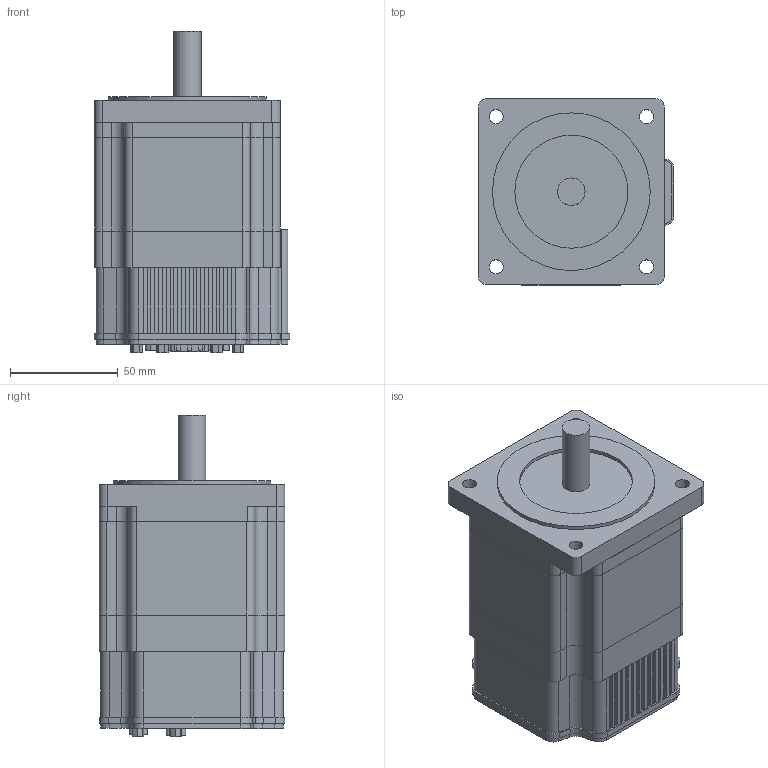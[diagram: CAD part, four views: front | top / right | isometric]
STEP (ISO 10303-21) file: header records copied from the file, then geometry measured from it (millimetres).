
FILE_DESCRIPTION(/* description */ ('Alibre Inc.'),/* implementation_level */ '2;1');
FILE_NAME(/* name */ 'export-CE428C04-40BC-4F24-A1C1-9516629718A7',/* time_stamp */ '2022-02-23T11:28:24-08:00',/* author */ (''),/* organization */ (''),/* preprocessor_version */ 'ST-DEVELOPER v17',/* originating_system */ 'Alibre',/* authorisation */ '');
FILE_SCHEMA (('CONFIG_CONTROL_DESIGN'));
Length unit declared in the file: inch
Products named in the file (15): ID_1
Bounding box: 90.42 x 86.11 x 149.02 mm (x, y, z)
Volume: 570333.3 mm3; surface area: 121701.9 mm2
Topology: 69 solids, 70 shells, 2133 faces, 5531 edges, 3627 vertices
Faces by surface type: plane 1051, bspline 641, cylinder 386, torus 50, cone 5
Full cylindrical faces by diameter (mm): 2.489 x4, 2.794 x5, 2.87 x4, 3.048 x6, 3.556 x15, 6.5 x4, 9.525 x2, 12.7 x1, 52.324 x1, 73.025 x1
Entity records: 69048 total; most frequent: CARTESIAN_POINT 22268, ORIENTED_EDGE 10822, DIRECTION 6261, EDGE_CURVE 5403, VERTEX_POINT 3565, VECTOR 3117, LINE 3117, EDGE_LOOP 2284
